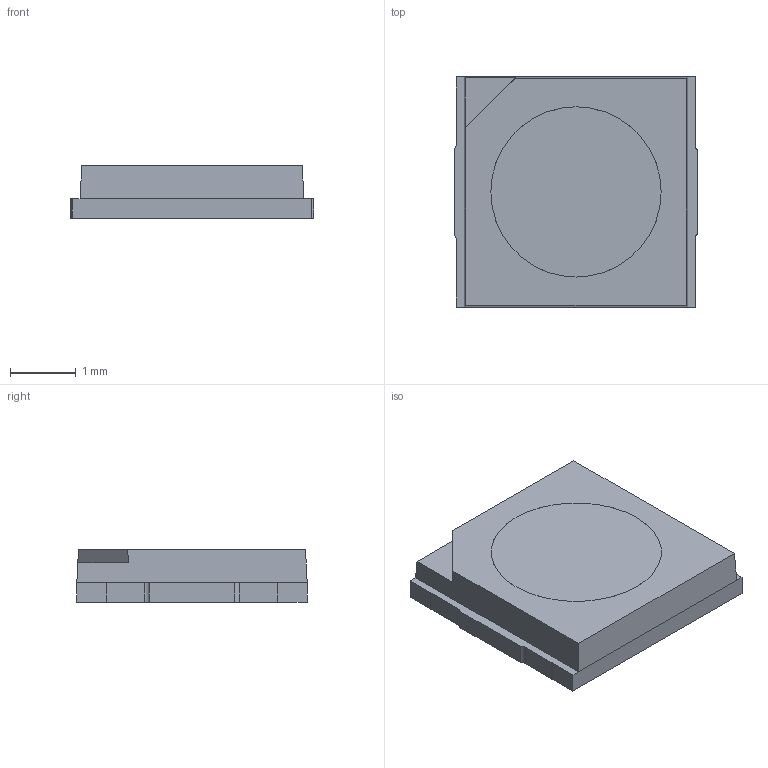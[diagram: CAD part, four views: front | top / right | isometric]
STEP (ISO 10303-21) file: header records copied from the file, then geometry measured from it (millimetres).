
FILE_DESCRIPTION(('STEP AP203'),'1');
FILE_NAME('C:/Users/chee-cheong.chan/Desktop/New folder/MA85-TZHG_260919.stp','2019-09-26T00:16:55',(' '),(' '),'Spatial InterOp 3D',' ',' ');
FILE_SCHEMA(('CONFIG_CONTROL_DESIGN'));
Length unit declared in the file: millimetre
Products named in the file (1): 1
Bounding box: 3.7 x 3.5 x 0.8 mm (x, y, z)
Volume: 9.7 mm3; surface area: 36.4 mm2
Topology: 1 solids, 1 shells, 61 faces, 167 edges, 109 vertices
Faces by surface type: plane 47, cylinder 12, cone 2
Entity records: 1957 total; most frequent: CARTESIAN_POINT 338, ORIENTED_EDGE 334, DIRECTION 319, EDGE_CURVE 167, LINE 139, VECTOR 139, VERTEX_POINT 109, AXIS2_PLACEMENT_3D 90
